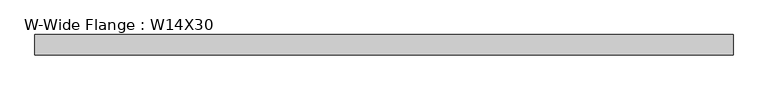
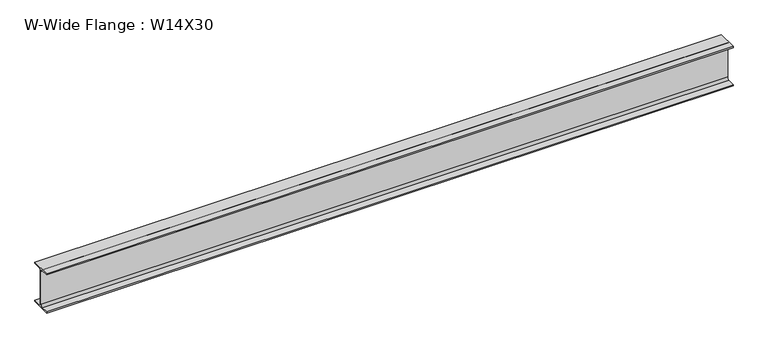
"""IFC4 building model written with IfcOpenShell, lengths in millimetres: beam geometry, W-Wide Flange : W14X30."""

from ifc_helpers import new_model, si_unit, point, frame, frame_2d, origin, place, context, project, spatial, polyline, circle_curve, trimmed, segment, composite_curve, outline, extrude, source, transform, mapped, element, save


def w_wide_flange_w14x30_b7c3a9b2(model_context):
    return source(origin(), model_context, "Body", "SweptSolid", [
        extrude(outline(composite_curve([segment(polyline([(85.4769531, -165.9433594), (85.4769531, -175.7660156), (-85.4769531, -175.7660156), (-85.4769531, -165.9433594), (-22.1753906, -165.9433594)]), True, "CONTINUOUS"), segment(trimmed(circle_curve(frame_2d((-22.1753906, -147.1910156)), 18.7523438), [point((-22.1753906, -165.9433594))], [point((-3.4230469, -147.1910156))], True, "CARTESIAN"), True, "CONTINUOUS"), segment(polyline([(-3.4230469, -147.1910156), (-3.4230469, 147.1910156)]), True, "CONTINUOUS"), segment(trimmed(circle_curve(frame_2d((-22.1753906, 147.1910156)), 18.7523438), [point((-3.4230469, 147.1910156))], [point((-22.1753906, 165.9433594))], True, "CARTESIAN"), True, "CONTINUOUS"), segment(polyline([(-22.1753906, 165.9433594), (-85.4769531, 165.9433594), (-85.4769531, 175.7660156), (85.4769531, 175.7660156), (85.4769531, 165.9433594), (22.1753906, 165.9433594)]), True, "CONTINUOUS"), segment(trimmed(circle_curve(frame_2d((22.1753906, 147.1910156)), 18.7523438), [point((22.1753906, 165.9433594))], [point((3.4230469, 147.1910156))], True, "CARTESIAN"), True, "CONTINUOUS"), segment(polyline([(3.4230469, 147.1910156), (3.4230469, -147.1910156)]), True, "CONTINUOUS"), segment(trimmed(circle_curve(frame_2d((22.1753906, -147.1910156)), 18.7523438), [point((3.4230469, -147.1910156))], [point((22.1753906, -165.9433594))], True, "CARTESIAN"), True, "CONTINUOUS"), segment(polyline([(22.1753906, -165.9433594), (85.4769531, -165.9433594)]), True, "CONTINUOUS")], self_intersect=False)), frame((-2911.7230469, 0.0, 0.0), z_axis=(1.0, 0.0, 0.0), x_axis=(0.0, 1.0, 0.0)), (0.0, 0.0, 1.0), 5823.4460937),
    ])


if __name__ == "__main__":
    model = new_model("IFC4")
    model_context = context("Model", 3, world=origin())
    ifc_project = project(units=[si_unit("LENGTHUNIT", "METRE", prefix="MILLI")], contexts=[model_context])
    site = spatial("IfcSite", under=ifc_project)
    building = spatial("IfcBuilding", under=site)
    placement = place(None, origin())
    w_wide_flange_w14x30_shape = w_wide_flange_w14x30_b7c3a9b2(model_context)
    element("IfcBeam", 1, ObjectType="W-Wide Flange : W14X30", at=placement, inside=building, context=model_context, shape_type="MappedRepresentation", body=[
        mapped(w_wide_flange_w14x30_shape, transform((0.0, 0.0, 0.0), x_axis=(1.0, 0.0, 0.0), y_axis=(0.0, 1.0, 0.0), z_axis=(0.0, 0.0, 1.0))),
    ])
    save(model, "model.ifc")
